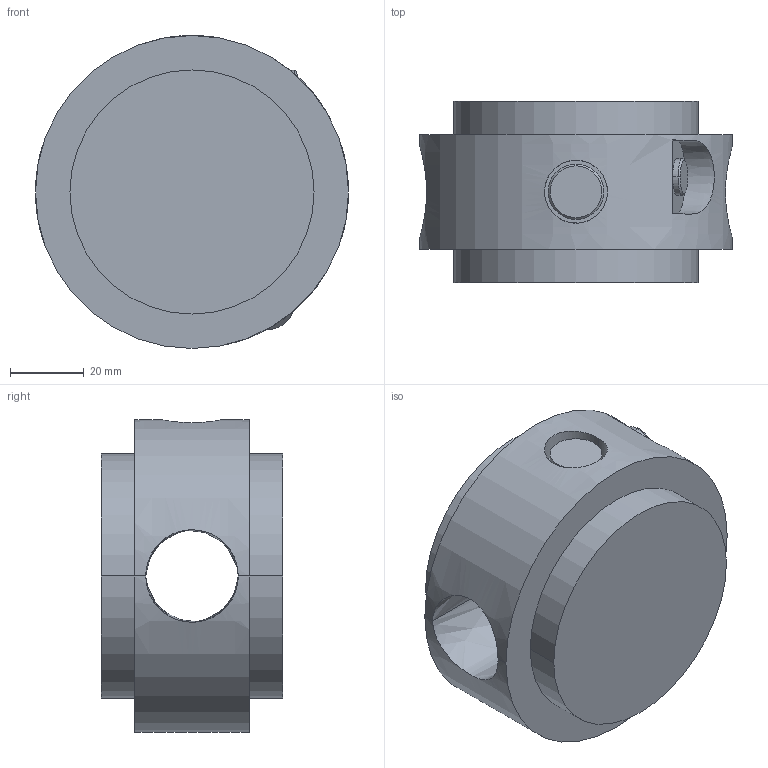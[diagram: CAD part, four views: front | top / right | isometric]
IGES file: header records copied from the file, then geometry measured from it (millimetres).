
Start section: SolidWorks IGES file using analytic representation for surfaces
Global section: file name: C:\Holley\Robot\IRB1600\CAD model\IRB1600_X-145_SW_IRC5_rev02\IRB1600_X-145_SW\IRB1600_X-145_IRC5_rev1_LINK5.IGS; native system: SolidWorks 2020; preprocessor: SolidWorks 2020; author: CNHOCHE3; date: 211129.145304; units: millimetre
Bounding box: 84.6 x 49 x 84.6 mm (x, y, z)
Volume: 192331.3 mm3; surface area: 29649.1 mm2
Topology: 1 solids, 1 shells, 36 faces, 74 edges, 46 vertices
Faces by surface type: revolution 24, plane 12
